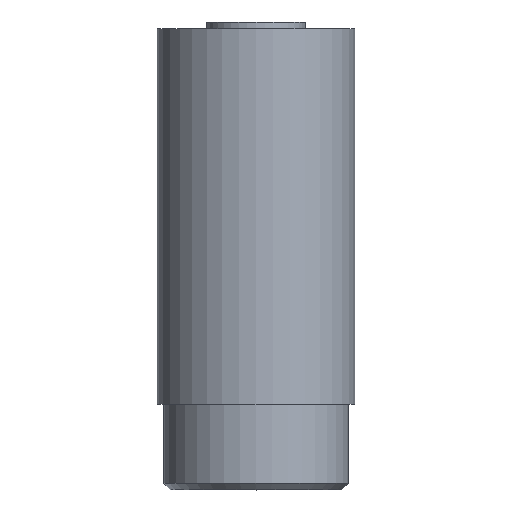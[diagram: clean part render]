
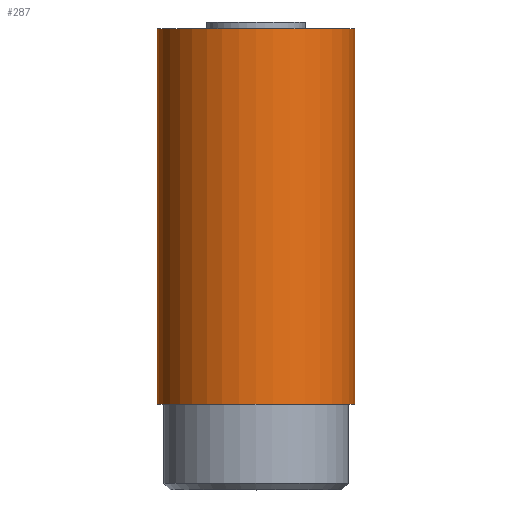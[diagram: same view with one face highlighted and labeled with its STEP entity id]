
A CAD part, top view. The second image highlights one B-rep face of the part: STEP entity #287.
In plain terms, the highlighted cylindrical face has radius 1.5 mm (diameter 3 mm), a full revolution.
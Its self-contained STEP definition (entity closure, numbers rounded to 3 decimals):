
#5 = CARTESIAN_POINT ( 'NONE',  ( 0., 2.5, 0. ) ) ;
#28 = CIRCLE ( 'NONE', #1433, 1.5 ) ;
#57 = CARTESIAN_POINT ( 'NONE',  ( 0., 7., 0. ) ) ;
#220 = FACE_OUTER_BOUND ( 'NONE', #3264, .T. ) ;
#287 = ADVANCED_FACE ( 'NONE', ( #220, #2287 ), #2745, .T. ) ;
#789 = EDGE_LOOP ( 'NONE', ( #1327 ) ) ;
#1233 = EDGE_CURVE ( 'NONE', #1946, #1946, #28, .T. ) ;
#1245 = DIRECTION ( 'NONE',  ( 0., -1., 0. ) ) ;
#1286 = VERTEX_POINT ( 'NONE', #3033 ) ;
#1327 = ORIENTED_EDGE ( 'NONE', *, *, #1233, .T. ) ;
#1433 = AXIS2_PLACEMENT_3D ( 'NONE', #57, #1245, #2479 ) ;
#1469 = DIRECTION ( 'NONE',  ( 0., -1., 0. ) ) ;
#1488 = DIRECTION ( 'NONE',  ( 0., -1., 0. ) ) ;
#1946 = VERTEX_POINT ( 'NONE', #3550 ) ;
#2182 = AXIS2_PLACEMENT_3D ( 'NONE', #3010, #1488, #3598 ) ;
#2287 = FACE_OUTER_BOUND ( 'NONE', #789, .T. ) ;
#2348 = ORIENTED_EDGE ( 'NONE', *, *, #2749, .F. ) ;
#2479 = DIRECTION ( 'NONE',  ( 1., 0., 0. ) ) ;
#2549 = AXIS2_PLACEMENT_3D ( 'NONE', #5, #1469, #2677 ) ;
#2677 = DIRECTION ( 'NONE',  ( 1., 0., 0. ) ) ;
#2745 = CYLINDRICAL_SURFACE ( 'NONE', #2549, 1.5 ) ;
#2749 = EDGE_CURVE ( 'NONE', #1286, #1286, #3478, .T. ) ;
#3010 = CARTESIAN_POINT ( 'NONE',  ( 0., 1.3, 0. ) ) ;
#3033 = CARTESIAN_POINT ( 'NONE',  ( 1.5, 1.3, 0. ) ) ;
#3264 = EDGE_LOOP ( 'NONE', ( #2348 ) ) ;
#3478 = CIRCLE ( 'NONE', #2182, 1.5 ) ;
#3550 = CARTESIAN_POINT ( 'NONE',  ( 1.5, 7., 0. ) ) ;
#3598 = DIRECTION ( 'NONE',  ( 1., 0., 0. ) ) ;
